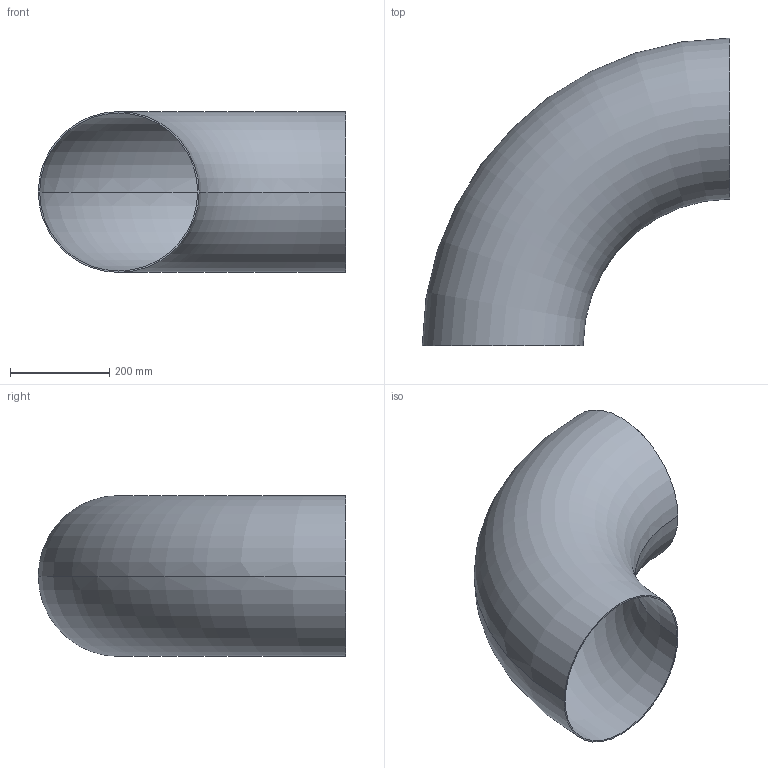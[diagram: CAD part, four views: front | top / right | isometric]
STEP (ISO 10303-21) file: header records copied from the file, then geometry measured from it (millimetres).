
FILE_DESCRIPTION (( 'STEP AP203' ), '1' );
FILE_NAME ('OT200-300-323_9x2_9_OSTP.step', '2020-12-16T03:04:23', ( '' ), ( '' ), 'SwSTEP 2.0', 'SolidWorks 2014', '' );
FILE_SCHEMA (( 'CONFIG_CONTROL_DESIGN' ));
Length unit declared in the file: millimetre
Products named in the file (1): OT200-300-323_9x2_9_OSTP
Bounding box: 618.95 x 618.95 x 323.9 mm (x, y, z)
Volume: 2099370 mm3; surface area: 1453690.4 mm2
Topology: 1 solids, 1 shells, 6 faces, 12 edges, 8 vertices
Faces by surface type: torus 4, plane 2
Entity records: 249 total; most frequent: DIRECTION 38, CARTESIAN_POINT 27, ORIENTED_EDGE 24, AXIS2_PLACEMENT_3D 19, EDGE_CURVE 12, CIRCLE 12, PERSON_AND_ORGANIZATION 8, EDGE_LOOP 8
